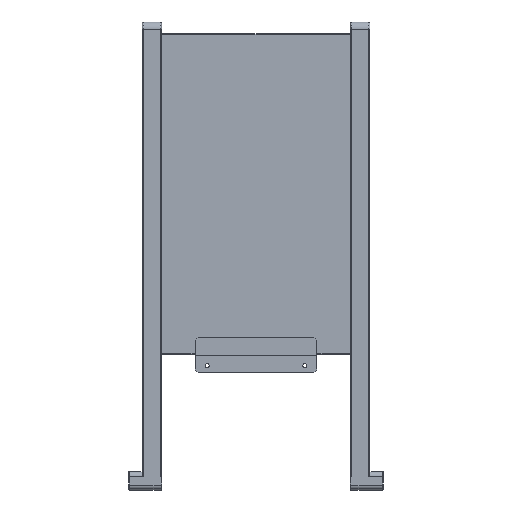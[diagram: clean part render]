
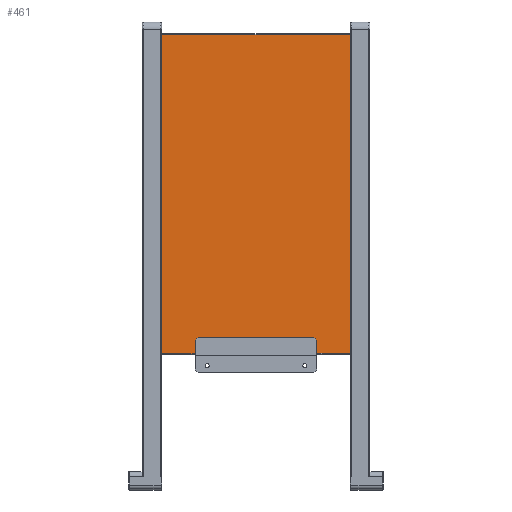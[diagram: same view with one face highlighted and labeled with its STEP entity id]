
A CAD part, front view. The second image highlights one B-rep face of the part: STEP entity #461.
In plain terms, the highlighted planar face has unit normal (0, -1, 0).
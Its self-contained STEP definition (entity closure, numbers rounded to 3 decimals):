
#461=ADVANCED_FACE('',(#1012),#1013,.T.);
#1012=FACE_OUTER_BOUND('',#2068,.T.);
#1013=PLANE('',#2069);
#2068=EDGE_LOOP('',(#3375,#3376,#3377,#3378,#3379,#3380,#3381,#3382,#3383,#3384));
#2069=AXIS2_PLACEMENT_3D('',#3385,#3386,#3387);
#3375=ORIENTED_EDGE('',*,*,#4742,.F.);
#3376=ORIENTED_EDGE('',*,*,#4758,.F.);
#3377=ORIENTED_EDGE('',*,*,#4759,.F.);
#3378=ORIENTED_EDGE('',*,*,#4760,.F.);
#3379=ORIENTED_EDGE('',*,*,#4755,.F.);
#3380=ORIENTED_EDGE('',*,*,#4761,.T.);
#3381=ORIENTED_EDGE('',*,*,#4762,.F.);
#3382=ORIENTED_EDGE('',*,*,#4763,.T.);
#3383=ORIENTED_EDGE('',*,*,#4764,.F.);
#3384=ORIENTED_EDGE('',*,*,#4765,.T.);
#3385=CARTESIAN_POINT('',(0.0,-34.2,527.0));
#3386=DIRECTION('',(0.0,-1.0,0.0));
#3387=DIRECTION('',(0.0,0.0,-1.0));
#4742=EDGE_CURVE('',#5768,#5770,#5771,.T.);
#4755=EDGE_CURVE('',#5783,#5785,#5786,.T.);
#4758=EDGE_CURVE('',#5789,#5768,#5790,.T.);
#4759=EDGE_CURVE('',#5791,#5789,#5792,.T.);
#4760=EDGE_CURVE('',#5785,#5791,#5793,.T.);
#4761=EDGE_CURVE('',#5783,#5794,#5795,.T.);
#4762=EDGE_CURVE('',#5796,#5794,#5797,.F.);
#4763=EDGE_CURVE('',#5796,#5798,#5799,.T.);
#4764=EDGE_CURVE('',#5800,#5798,#5801,.F.);
#4765=EDGE_CURVE('',#5800,#5770,#5802,.T.);
#5768=VERTEX_POINT('',#7213);
#5770=VERTEX_POINT('',#7215);
#5771=LINE('',#7216,#7217);
#5783=VERTEX_POINT('',#7233);
#5785=VERTEX_POINT('',#7235);
#5786=LINE('',#7236,#7237);
#5789=VERTEX_POINT('',#7240);
#5790=LINE('',#7241,#7242);
#5791=VERTEX_POINT('',#7243);
#5792=LINE('',#7244,#7245);
#5793=LINE('',#7246,#7247);
#5794=VERTEX_POINT('',#7248);
#5795=LINE('',#7249,#7250);
#5796=VERTEX_POINT('',#7251);
#5797=LINE('',#7252,#7253);
#5798=VERTEX_POINT('',#7254);
#5799=LINE('',#7255,#7256);
#5800=VERTEX_POINT('',#7257);
#5801=LINE('',#7258,#7259);
#5802=LINE('',#7260,#7261);
#7213=CARTESIAN_POINT('',(155.0,-34.2,2.));
#7215=CARTESIAN_POINT('',(100.0,-34.2,2.));
#7216=CARTESIAN_POINT('',(0.0,-34.2,2.));
#7217=VECTOR('',#8417,10.0);
#7233=CARTESIAN_POINT('',(-100.0,-34.2,2.));
#7235=CARTESIAN_POINT('',(-155.0,-34.2,2.));
#7236=CARTESIAN_POINT('',(0.0,-34.2,2.));
#7237=VECTOR('',#8434,10.0);
#7240=CARTESIAN_POINT('',(155.0,-34.2,525.0));
#7241=CARTESIAN_POINT('',(155.0,-34.2,536.5));
#7242=VECTOR('',#8438,10.0);
#7243=CARTESIAN_POINT('',(-155.0,-34.2,525.0));
#7244=CARTESIAN_POINT('',(0.0,-34.2,525.0));
#7245=VECTOR('',#8439,10.0);
#7246=CARTESIAN_POINT('',(-155.0,-34.2,167.5));
#7247=VECTOR('',#8440,10.0);
#7248=CARTESIAN_POINT('',(-100.0,-34.2,23.62));
#7249=CARTESIAN_POINT('',(-100.0,-34.2,263.125));
#7250=VECTOR('',#8441,10.0);
#7251=CARTESIAN_POINT('',(-95.12,-34.2,28.5));
#7252=CARTESIAN_POINT('',(52.065,-34.2,175.685));
#7253=VECTOR('',#8442,10.0);
#7254=CARTESIAN_POINT('',(95.12,-34.2,28.5));
#7255=CARTESIAN_POINT('',(0.0,-34.2,28.5));
#7256=VECTOR('',#8443,10.0);
#7257=CARTESIAN_POINT('',(100.0,-34.2,23.62));
#7258=CARTESIAN_POINT('',(-52.065,-34.2,175.685));
#7259=VECTOR('',#8444,10.0);
#7260=CARTESIAN_POINT('',(100.0,-34.2,263.125));
#7261=VECTOR('',#8445,10.0);
#8417=DIRECTION('',(-1.0,-0.0,0.0));
#8434=DIRECTION('',(-1.0,-0.0,0.0));
#8438=DIRECTION('',(0.,0.0,-1.0));
#8439=DIRECTION('',(1.0,0.0,0.0));
#8440=DIRECTION('',(0.,0.0,1.0));
#8441=DIRECTION('',(0.0,0.0,1.0));
#8442=DIRECTION('',(0.707,0.0,0.707));
#8443=DIRECTION('',(1.0,0.0,0.0));
#8444=DIRECTION('',(0.707,0.0,-0.707));
#8445=DIRECTION('',(0.0,0.0,-1.0));
